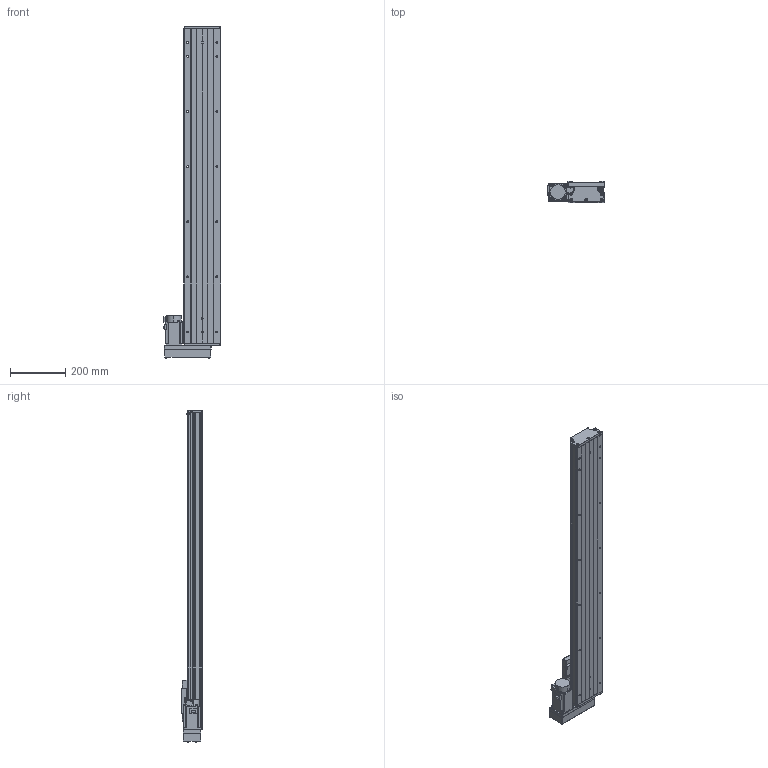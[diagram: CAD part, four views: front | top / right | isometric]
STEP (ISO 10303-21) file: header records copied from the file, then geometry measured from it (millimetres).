
FILE_DESCRIPTION (( 'STEP AP203' ), '1' );
FILE_NAME ('CTH130-950-BL-M40-C4.step', '2023-06-30T02:40:17', ( '微软用户' ), ( '微软中国' ), 'SwSTEP 2.0', 'SolidWorks 2020', '' );
FILE_SCHEMA (( 'CONFIG_CONTROL_DESIGN' ));
Length unit declared in the file: millimetre
Products named in the file (20): GTH14-004; GBT 70.1-M3℅5; GTH14-015-2_CTHA86-015-2; GTH14-005; GBT77-2000 M3×3; GTH14-033; GB1155-6X6; CTH130-031; CTH130-950-BL-M40-C4; GBT70.1 M5℅16; GBT 70.2-M3¡Á5_M3¡Á6; GTH14-001_950; CTHA60-017; す晦芛蹟隊 M3℅5; CTH130-002_GTH14-002; EE_SX911P_R; HG-KN43J-S100; GB T308.1-2013-6.35; CTHA60-016; GBT 70.2-M4¡Á35_M4¡Á35
Assembly tree (60 placements, depth 2):
  CTH130-950-BL-M40-C4
    GTH14-001_950
    CTH130-002_GTH14-002
    GB T308.1-2013-6.35  x2
    GTH14-004
    GTH14-005
    GB1155-6X6  x2
    GBT70.1 M5℅16  x10
    CTHA60-017  x3
    EE_SX911P_R  x3
    CTHA60-016  x2
    GBT 70.1-M3℅5  x6
    GBT77-2000 M3×3  x6
    CTH130-031
    GBT 70.2-M3¡Á5_M3¡Á6  x8
    す晦芛蹟隊 M3℅5  x6
    HG-KN43J-S100
    GBT 70.2-M4¡Á35_M4¡Á35  x4
    GTH14-015-2_CTHA86-015-2
    GTH14-033
Bounding box: 209.3 x 76 x 1204.2 mm (x, y, z)
Volume: 6307479.1 mm3; surface area: 1023796.4 mm2
Topology: 63 solids, 63 shells, 2455 faces, 5845 edges, 3617 vertices
Faces by surface type: plane 1314, cylinder 662, cone 299, torus 124, sphere 36, bspline 20
Entity records: 44540 total; most frequent: CARTESIAN_POINT 9947, DIRECTION 6522, ORIENTED_EDGE 6396, EDGE_CURVE 3198, AXIS2_PLACEMENT_3D 2236, LINE 2050, VECTOR 2050, VERTEX_POINT 2027
